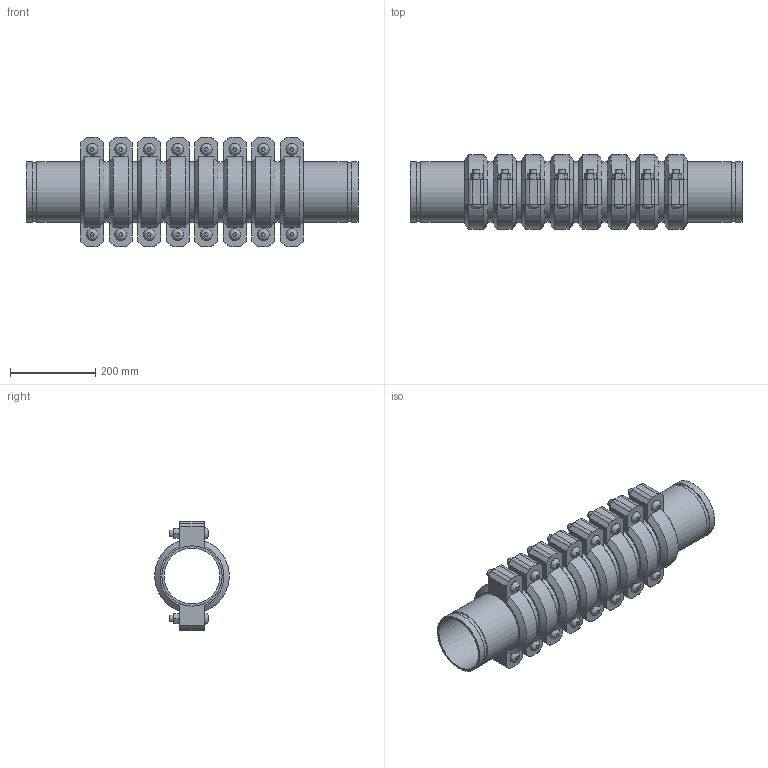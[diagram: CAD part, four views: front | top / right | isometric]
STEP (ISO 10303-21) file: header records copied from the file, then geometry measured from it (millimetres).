
FILE_DESCRIPTION(/* description */ ('VIC EXPANSION JOINT 8 COUPLINGS EXPANDED STYLE 155 (OGS)','CAx-IF Rec.Pracs.---Representation and Presentation of Product Manufacturing Information (PMI)---4.0---2014-10-13'),/* implementation_level */ '2;1');
FILE_NAME(/* name */ 'C:\Users\kkamble\AppData\Roaming\Autodesk\ApplicationPlugins\Victaulic.Temp\A413\Victaulic_IPS_Expansion Joint_Expanded_8 Couplings_Style 155 (OGS)_5 (125).stp',/* time_stamp */ '2021-06-27T00:09:15+02:00',/* author */ ('kkamble'),/* organization */ ('Victaulic'),/* preprocessor_version */ 'ST-DEVELOPER v17.2',/* originating_system */ 'Autodesk Inventor 2019',/* authorisation */ '');
FILE_SCHEMA (('AP242_MANAGED_MODEL_BASED_3D_ENGINEERING_MIM_LF { 1 0 10303 442 1 1 4 }'));
Length unit declared in the file: inch
Products named in the file (4): 155-05.0; Nipple-05.0; Nipple-05.0_1; 075-05.0
Assembly tree (17 placements, depth 2):
  155-05.0
    Nipple-05.0  x2
    Nipple-05.0_1  x7
    075-05.0  x8
Bounding box: 778 x 174.16 x 255.78 mm (x, y, z)
Volume: 6886181.8 mm3; surface area: 1525172.3 mm2
Topology: 17 solids, 33 shells, 564 faces, 1334 edges, 936 vertices
Faces by surface type: plane 342, cylinder 174, cone 32, bspline 16
Full cylindrical faces by diameter (mm): 15.875 x32, 17.424 x16, 130.988 x9, 134.95 x8, 137.033 x18, 141.3 x43
Entity records: 2849 total; most frequent: CARTESIAN_POINT 501, DIRECTION 477, ORIENTED_EDGE 386, EDGE_CURVE 193, AXIS2_PLACEMENT_3D 192, VERTEX_POINT 138, EDGE_LOOP 107, LINE 93
